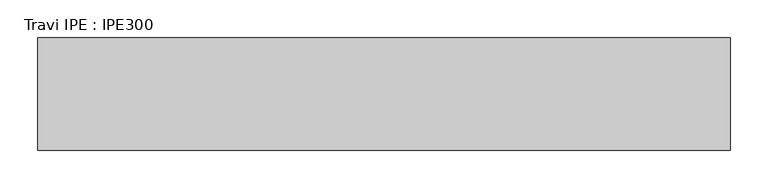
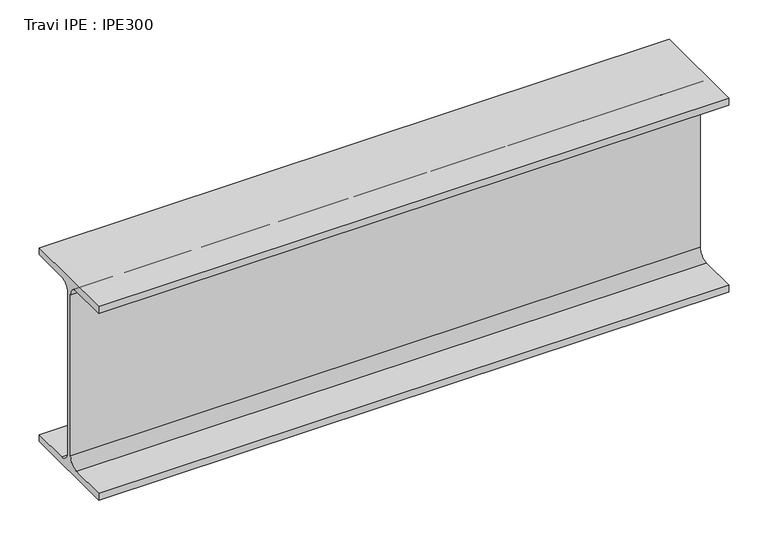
"""IFC4 building model written with IfcOpenShell, lengths in millimetres: beam geometry, Travi IPE : IPE300."""

from ifc_helpers import new_model, si_unit, point, frame, frame_2d, origin, place, context, project, spatial, polyline, circle_curve, trimmed, segment, composite_curve, outline, extrude, source, transform, mapped, element, save


def travi_ipe_ipe300_16f8c149(model_context):
    return source(origin(), model_context, "Body", "SweptSolid", [
        extrude(outline(composite_curve([segment(polyline([(75.0, -139.3), (75.0, -150.0), (-75.0, -150.0), (-75.0, -139.3), (-18.55, -139.3)]), True, "CONTINUOUS"), segment(trimmed(circle_curve(frame_2d((-18.55, -124.3)), 15.0), [point((-18.55, -139.3))], [point((-3.55, -124.3))], True, "CARTESIAN"), True, "CONTINUOUS"), segment(polyline([(-3.55, -124.3), (-3.55, 124.3)]), True, "CONTINUOUS"), segment(trimmed(circle_curve(frame_2d((-18.55, 124.3)), 15.0), [point((-3.55, 124.3))], [point((-18.55, 139.3))], True, "CARTESIAN"), True, "CONTINUOUS"), segment(polyline([(-18.55, 139.3), (-75.0, 139.3), (-75.0, 150.0), (75.0, 150.0), (75.0, 139.3), (18.55, 139.3)]), True, "CONTINUOUS"), segment(trimmed(circle_curve(frame_2d((18.55, 124.3)), 15.0), [point((18.55, 139.3))], [point((3.55, 124.3))], True, "CARTESIAN"), True, "CONTINUOUS"), segment(polyline([(3.55, 124.3), (3.55, -124.3)]), True, "CONTINUOUS"), segment(trimmed(circle_curve(frame_2d((18.55, -124.3)), 15.0), [point((3.55, -124.3))], [point((18.55, -139.3))], True, "CARTESIAN"), True, "CONTINUOUS"), segment(polyline([(18.55, -139.3), (75.0, -139.3)]), True, "CONTINUOUS")], self_intersect=False)), frame((-461.0, 0.0, 0.0), z_axis=(1.0, 0.0, 0.0), x_axis=(0.0, 1.0, 0.0)), (0.0, 0.0, 1.0), 922.0),
    ])


if __name__ == "__main__":
    model = new_model("IFC4")
    model_context = context("Model", 3, world=origin())
    ifc_project = project(units=[si_unit("LENGTHUNIT", "METRE", prefix="MILLI")], contexts=[model_context])
    site = spatial("IfcSite", under=ifc_project)
    building = spatial("IfcBuilding", under=site)
    placement = place(None, origin())
    travi_ipe_ipe300_shape = travi_ipe_ipe300_16f8c149(model_context)
    element("IfcBeam", 1, ObjectType="Travi IPE : IPE300", at=placement, inside=building, context=model_context, shape_type="MappedRepresentation", body=[
        mapped(travi_ipe_ipe300_shape, transform((0.0, 0.0, 0.0), x_axis=(1.0, 0.0, 0.0), y_axis=(0.0, 1.0, 0.0), z_axis=(0.0, 0.0, 1.0))),
    ])
    save(model, "model.ifc")
